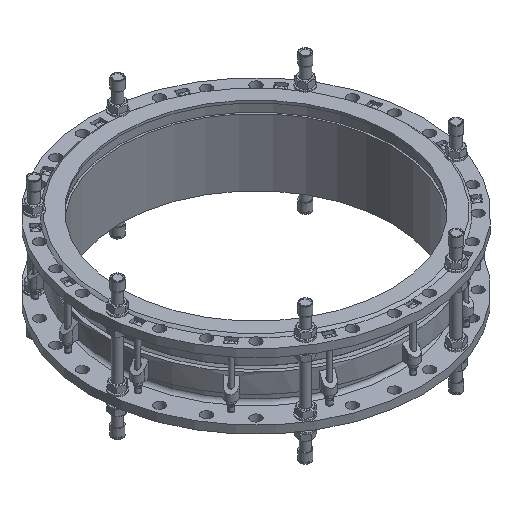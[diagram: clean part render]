
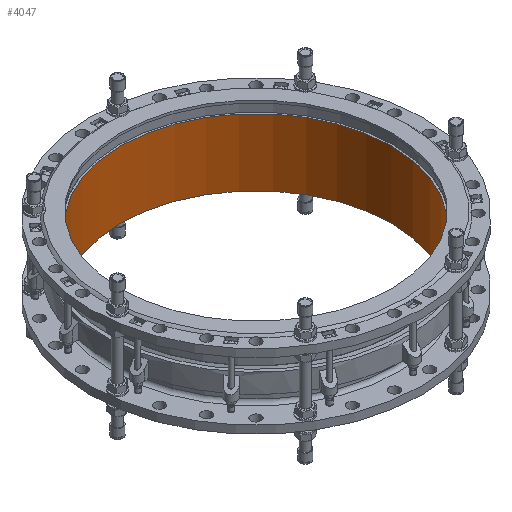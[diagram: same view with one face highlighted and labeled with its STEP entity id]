
A CAD part, isometric view. The second image highlights one B-rep face of the part: STEP entity #4047.
In plain terms, the highlighted cylindrical face has radius 500 mm (diameter 1000 mm), a full revolution.
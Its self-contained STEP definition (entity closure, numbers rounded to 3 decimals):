
#4047=ADVANCED_FACE('',(#4892,#4894),#4896,.F.);
#4892=FACE_OUTER_BOUND('',#4893,.T.);
#4893=EDGE_LOOP('',(#8656));
#4894=FACE_OUTER_BOUND('',#4895,.T.);
#4895=EDGE_LOOP('',(#8657));
#4896=CYLINDRICAL_SURFACE('',#4897,500.);
#4897=AXIS2_PLACEMENT_3D('',#4898,#4899,#4900);
#4898=CARTESIAN_POINT('',(0.,0.,0.));
#4899=DIRECTION('',(0.,0.,1.));
#4900=DIRECTION('',(-1.,0.,0.));
#8656=ORIENTED_EDGE('',*,*,#11311,.F.);
#8657=ORIENTED_EDGE('',*,*,#11312,.F.);
#11311=EDGE_CURVE('',#12554,#12554,#12555,.T.);
#11312=EDGE_CURVE('',#12556,#12556,#12557,.T.);
#12554=VERTEX_POINT('',#14693);
#12555=CIRCLE('',#14694,500.);
#12556=VERTEX_POINT('',#14698);
#12557=CIRCLE('',#14699,500.);
#14693=CARTESIAN_POINT('',(-500.,0.,247.));
#14694=AXIS2_PLACEMENT_3D('',#14695,#14696,#14697);
#14695=CARTESIAN_POINT('',(0.,0.,247.));
#14696=DIRECTION('',(0.,0.,-1.));
#14697=DIRECTION('',(-1.,0.,0.));
#14698=CARTESIAN_POINT('',(-500.,0.,0.));
#14699=AXIS2_PLACEMENT_3D('',#14700,#14701,#14702);
#14700=CARTESIAN_POINT('',(0.,0.,0.));
#14701=DIRECTION('',(0.,0.,1.));
#14702=DIRECTION('',(-1.,0.,0.));
